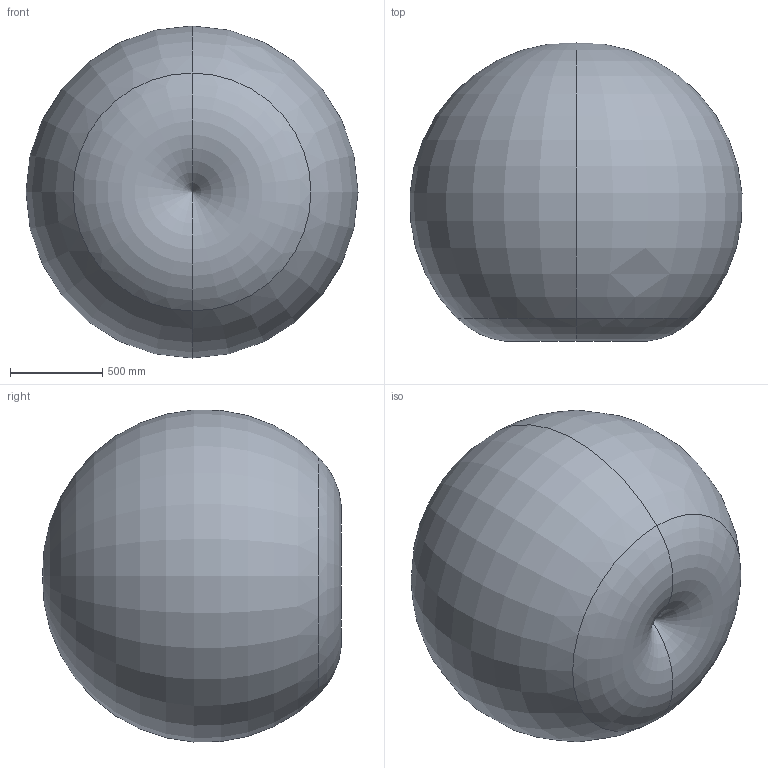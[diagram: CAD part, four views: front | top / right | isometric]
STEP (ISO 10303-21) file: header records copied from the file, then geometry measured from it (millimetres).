
FILE_DESCRIPTION (( 'STEP AP214' ), '1' );
FILE_NAME ('TRV010-900-S.STEP', '2025-10-21T03:03:49', ( '' ), ( '' ), 'SwSTEP 2.0', 'SolidWorks 2023', '' );
FILE_SCHEMA (( 'AUTOMOTIVE_DESIGN' ));
Length unit declared in the file: millimetre
Products named in the file (9): 复件 TRV010-900-肩部^TRV010-900-S-外发模型; 复件 TRV010-900-肘部^TRV010-900-S-外发模型; 复件 TRV010-900-小臂1^TRV010-900-S-外发模型; 复件 TRV010-900-腕部外发1^TRV010-900-S-外发模型; 复件 TRV1090-大臂1^TRV010-900-S-外发模型; 复件 TRV010-900-工作空间^TRV010-900-S-外发模型; 复件 end_TRV010_900_S^TRV010-900-S-外发模型; 复件 TRV010-900-底座^TRV010-900-S-外发模型; TRV010-900-S
Assembly tree (8 placements, depth 2):
  TRV010-900-S
    复件 TRV010-900-底座^TRV010-900-S-外发模型
    复件 TRV010-900-肩部^TRV010-900-S-外发模型
    复件 TRV1090-大臂1^TRV010-900-S-外发模型
    复件 TRV010-900-肘部^TRV010-900-S-外发模型
    复件 TRV010-900-小臂1^TRV010-900-S-外发模型
    复件 TRV010-900-腕部外发1^TRV010-900-S-外发模型
    复件 end_TRV010_900_S^TRV010-900-S-外发模型
    复件 TRV010-900-工作空间^TRV010-900-S-外发模型
Bounding box: 1799.03 x 1619.52 x 1799.03 mm (x, y, z)
Volume: 2914900494.8 mm3; surface area: 12183221.1 mm2
Topology: 9 solids, 92 shells, 7320 faces, 18398 edges, 11573 vertices
Faces by surface type: plane 3050, cylinder 1765, bspline 1223, cone 640, torus 535, sphere 107
Entity records: 357516 total; most frequent: CARTESIAN_POINT 191886, ORIENTED_EDGE 36454, DIRECTION 31128, EDGE_CURVE 18227, VERTEX_POINT 11573, AXIS2_PLACEMENT_3D 11378, VECTOR 8372, LINE 8372
